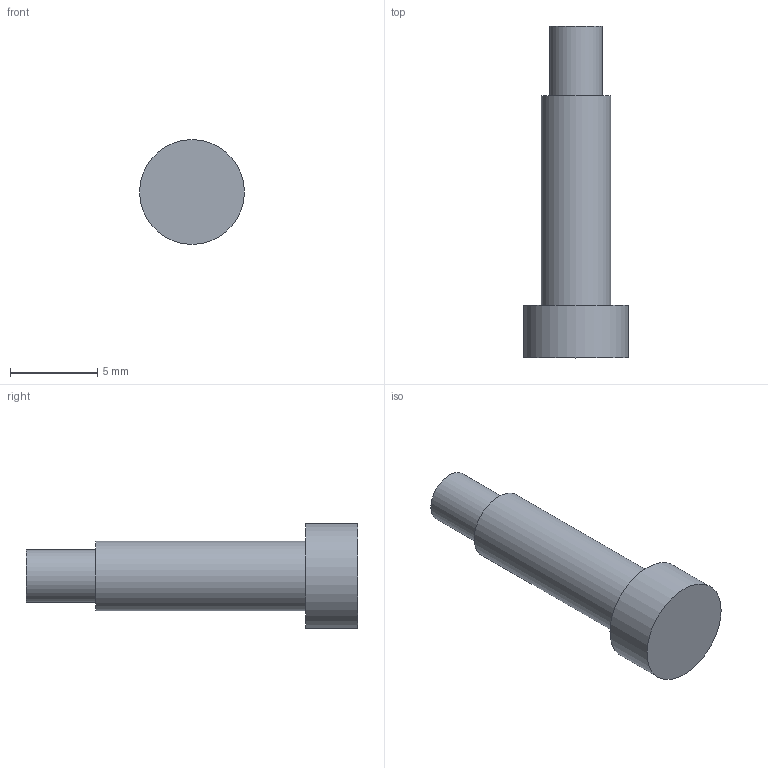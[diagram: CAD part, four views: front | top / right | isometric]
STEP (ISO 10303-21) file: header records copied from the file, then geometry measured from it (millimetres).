
FILE_DESCRIPTION(('Open CASCADE Model'),'2;1');
FILE_NAME('Open CASCADE Shape Model','2026-10-06T03:35:42',('Author'),( 'Open CASCADE'),'Open CASCADE STEP processor 7.8','Open CASCADE 7.8' ,'Unknown');
FILE_SCHEMA(('AUTOMOTIVE_DESIGN { 1 0 10303 214 1 1 1 1 }'));
Length unit declared in the file: millimetre
Products named in the file (1): Open CASCADE STEP translator 7.8 9
Bounding box: 6 x 19 x 6 mm (x, y, z)
Volume: 263.9 mm3; surface area: 301.6 mm2
Topology: 1 solids, 1 shells, 7 faces, 9 edges, 6 vertices
Faces by surface type: plane 4, cylinder 3
Full cylindrical faces by diameter (mm): 3 x1, 4 x1, 6 x1
Entity records: 276 total; most frequent: DIRECTION 49, CARTESIAN_POINT 41, ORIENTED_EDGE 18, PCURVE 18, DEFINITIONAL_REPRESENTATION 18, LINE 15, VECTOR 15, AXIS2_PLACEMENT_3D 14
